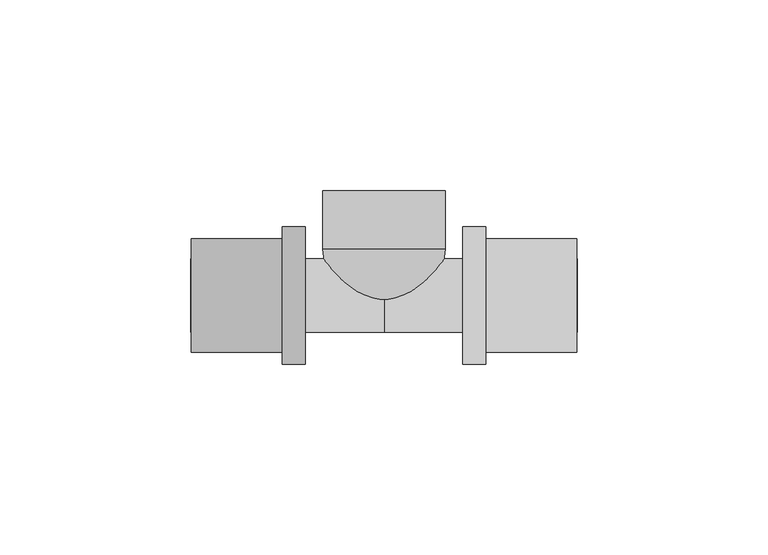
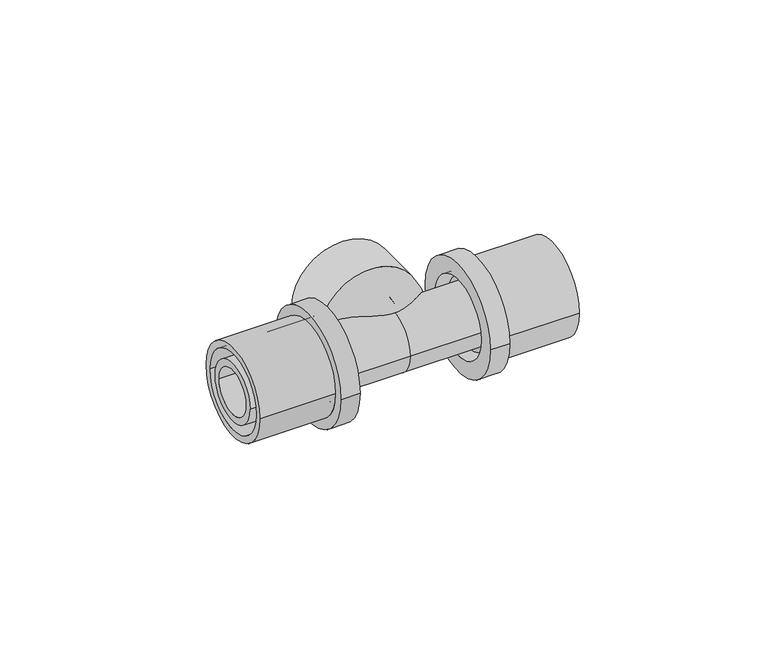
"""IFC4 building model written with IfcOpenShell, lengths in millimetres: pipe fitting geometry, FASTLOC_T-piece internal thread EX+ : FSL T thread EX+ AT."""

from ifc_helpers import new_model, si_unit, point, frame, origin, place, context, project, spatial, polyline, circle_curve, ellipse_curve, trimmed, source, transform, mapped, element, save
from ifc_brep_helpers import plane_surface, cylinder_surface, revolved_surface, advanced_brep


def pipe_fitting_e5d04139(model_context):
    return source(origin(), model_context, "Body", "AdvancedBrep", [
        advanced_brep(
        [(26.7, 18.0, 0.0), (26.7, -18.0, 0.0), (20.7, -18.0, 0.0), (20.7, 18.0, 0.0), (50.5, 14.85, 0.0), (50.5, -14.85, 0.0), (26.7, -14.85, 0.0), (26.7, 14.85, 0.0), (20.7, 12.65, 0.0), (20.7, -12.65, 0.0), (50.5, -12.65, 0.0), (50.5, 12.65, 0.0)],
        [
            (0, 1, circle_curve(frame((26.7, 0.0, 0.0), z_axis=(-1.0, 0.0, 0.0), x_axis=(0.0, -1.0, 0.0)), 18.0)),
            (1, 2),
            (2, 3, circle_curve(frame((20.7, 0.0, 0.0), z_axis=(1.0, 0.0, 0.0), x_axis=(0.0, -1.0, 0.0)), 18.0)),
            (3, 0),
            (4, 5, circle_curve(frame((50.5, 0.0, 0.0), z_axis=(-1.0, 0.0, 0.0), x_axis=(0.0, -1.0, 0.0)), 14.85)),
            (5, 6),
            (6, 7, circle_curve(frame((26.7, 0.0, 0.0), z_axis=(1.0, 0.0, 0.0), x_axis=(0.0, -1.0, 0.0)), 14.85)),
            (7, 4),
            (8, 9, circle_curve(frame((20.7, 0.0, 0.0), z_axis=(-1.0, 0.0, 0.0), x_axis=(0.0, -1.0, 0.0)), 12.65)),
            (9, 10),
            (10, 11, circle_curve(frame((50.5, 0.0, 0.0), z_axis=(1.0, 0.0, 0.0), x_axis=(0.0, -1.0, 0.0)), 12.65)),
            (11, 8),
            (1, 0, circle_curve(frame((26.7, 0.0, 0.0), z_axis=(-1.0, 0.0, 0.0), x_axis=(0.0, 1.0, 0.0)), 18.0)),
            (3, 2, circle_curve(frame((20.7, 0.0, 0.0), z_axis=(1.0, 0.0, 0.0), x_axis=(0.0, 1.0, 0.0)), 18.0)),
            (6, 7, circle_curve(frame((26.7, 0.0, 0.0), z_axis=(-1.0, 0.0, 0.0), x_axis=(0.0, 1.0, 0.0)), 14.85)),
            (5, 4, circle_curve(frame((50.5, 0.0, 0.0), z_axis=(-1.0, 0.0, 0.0), x_axis=(0.0, 1.0, 0.0)), 14.85)),
            (10, 11, circle_curve(frame((50.5, 0.0, 0.0), z_axis=(-1.0, 0.0, 0.0), x_axis=(0.0, 1.0, 0.0)), 12.65)),
            (9, 8, circle_curve(frame((20.7, 0.0, 0.0), z_axis=(-1.0, 0.0, 0.0), x_axis=(0.0, 1.0, 0.0)), 12.65)),
        ],
        [
            cylinder_surface(frame((20.7, 0.0, 0.0), z_axis=(1.0, 0.0, 0.0), x_axis=(0.0, -1.0, 0.0)), 18.0),
            cylinder_surface(frame((20.7, 0.0, 0.0), z_axis=(1.0, 0.0, 0.0), x_axis=(0.0, -1.0, 0.0)), 14.85),
            revolved_surface(polyline([(50.5, -12.65, 0.0), (20.7, -12.65, 0.0)]), (20.7, 0.0, 0.0), (1.0, 0.0, 0.0)),
            cylinder_surface(frame((20.7, 0.0, 0.0), z_axis=(1.0, 0.0, 0.0), x_axis=(0.0, 1.0, 0.0)), 18.0),
            plane_surface(frame((26.7, 0.0, 0.0), z_axis=(1.0, 0.0, 0.0), x_axis=(0.0, 1.0, 0.0))),
            cylinder_surface(frame((20.7, 0.0, 0.0), z_axis=(1.0, 0.0, 0.0), x_axis=(0.0, 1.0, 0.0)), 14.85),
            plane_surface(frame((50.5, 0.0, 0.0), z_axis=(1.0, 0.0, 0.0), x_axis=(0.0, 1.0, 0.0))),
            revolved_surface(polyline([(50.5, 12.65, 0.0), (20.7, 12.65, 0.0)]), (20.7, 0.0, 0.0), (1.0, 0.0, 0.0)),
            plane_surface(frame((20.7, 0.0, 0.0), z_axis=(-1.0, 0.0, 0.0), x_axis=(0.0, 1.0, 0.0))),
        ],
        [
            (0, [[1, 2, 3, 4]]),
            (1, [[5, 6, 7, 8]]),
            (2, [[9, 10, 11, 12]]),
            (3, [[13, -4, 14, -2]]),
            (4, [[-13, -1], [15, -7]]),
            (5, [[16, -8, -15, -6]]),
            (6, [[-16, -5], [17, -11]]),
            (7, [[18, -12, -17, -10]]),
            (8, [[-14, -3], [-18, -9]]),
        ],
    ),
        advanced_brep(
        [(-26.7, -18.0, 0.0), (-26.7, 18.0, 0.0), (-20.7, 18.0, 0.0), (-20.7, -18.0, 0.0), (-50.5, -14.85, 0.0), (-50.5, 14.85, 0.0), (-26.7, 14.85, 0.0), (-26.7, -14.85, 0.0), (-20.7, -12.65, 0.0), (-20.7, 12.65, 0.0), (-50.5, 12.65, 0.0), (-50.5, -12.65, 0.0)],
        [
            (0, 1, circle_curve(frame((-26.7, 0.0, 0.0), z_axis=(1.0, 0.0, 0.0), x_axis=(0.0, 1.0, 0.0)), 18.0)),
            (1, 2),
            (2, 3, circle_curve(frame((-20.7, 0.0, 0.0), z_axis=(-1.0, 0.0, 0.0), x_axis=(0.0, 1.0, 0.0)), 18.0)),
            (3, 0),
            (4, 5, circle_curve(frame((-50.5, 0.0, 0.0), z_axis=(1.0, 0.0, 0.0), x_axis=(0.0, 1.0, 0.0)), 14.85)),
            (5, 6),
            (6, 7, circle_curve(frame((-26.7, 0.0, 0.0), z_axis=(-1.0, 0.0, 0.0), x_axis=(0.0, 1.0, 0.0)), 14.85)),
            (7, 4),
            (8, 9, circle_curve(frame((-20.7, 0.0, 0.0), z_axis=(1.0, 0.0, 0.0), x_axis=(0.0, 1.0, 0.0)), 12.65)),
            (9, 10),
            (10, 11, circle_curve(frame((-50.5, 0.0, 0.0), z_axis=(-1.0, 0.0, 0.0), x_axis=(0.0, 1.0, 0.0)), 12.65)),
            (11, 8),
            (1, 0, circle_curve(frame((-26.7, 0.0, 0.0), z_axis=(1.0, 0.0, 0.0), x_axis=(0.0, -1.0, 0.0)), 18.0)),
            (3, 2, circle_curve(frame((-20.7, 0.0, 0.0), z_axis=(-1.0, 0.0, 0.0), x_axis=(0.0, -1.0, 0.0)), 18.0)),
            (6, 7, circle_curve(frame((-26.7, 0.0, 0.0), z_axis=(1.0, 0.0, 0.0), x_axis=(0.0, -1.0, 0.0)), 14.85)),
            (5, 4, circle_curve(frame((-50.5, 0.0, 0.0), z_axis=(1.0, 0.0, 0.0), x_axis=(0.0, -1.0, 0.0)), 14.85)),
            (10, 11, circle_curve(frame((-50.5, 0.0, 0.0), z_axis=(1.0, 0.0, 0.0), x_axis=(0.0, -1.0, 0.0)), 12.65)),
            (9, 8, circle_curve(frame((-20.7, 0.0, 0.0), z_axis=(1.0, 0.0, 0.0), x_axis=(0.0, -1.0, 0.0)), 12.65)),
        ],
        [
            cylinder_surface(frame((-20.7, 0.0, 0.0), z_axis=(-1.0, 0.0, 0.0), x_axis=(0.0, 1.0, 0.0)), 18.0),
            cylinder_surface(frame((-20.7, 0.0, 0.0), z_axis=(-1.0, 0.0, 0.0), x_axis=(0.0, 1.0, 0.0)), 14.85),
            revolved_surface(polyline([(-50.5, 12.65, 0.0), (-20.7, 12.65, 0.0)]), (-20.7, 0.0, 0.0), (-1.0, 0.0, 0.0)),
            cylinder_surface(frame((-20.7, 0.0, 0.0), z_axis=(-1.0, 0.0, 0.0), x_axis=(0.0, -1.0, 0.0)), 18.0),
            plane_surface(frame((-26.7, 0.0, 0.0), z_axis=(-1.0, 0.0, 0.0), x_axis=(0.0, -1.0, 0.0))),
            cylinder_surface(frame((-20.7, 0.0, 0.0), z_axis=(-1.0, 0.0, 0.0), x_axis=(0.0, -1.0, 0.0)), 14.85),
            plane_surface(frame((-50.5, 0.0, 0.0), z_axis=(-1.0, 0.0, 0.0), x_axis=(0.0, -1.0, 0.0))),
            revolved_surface(polyline([(-50.5, -12.65, 0.0), (-20.7, -12.65, 0.0)]), (-20.7, 0.0, 0.0), (-1.0, 0.0, 0.0)),
            plane_surface(frame((-20.7, 0.0, 0.0), z_axis=(1.0, 0.0, 0.0), x_axis=(0.0, -1.0, 0.0))),
        ],
        [
            (0, [[1, 2, 3, 4]]),
            (1, [[5, 6, 7, 8]]),
            (2, [[9, 10, 11, 12]]),
            (3, [[13, -4, 14, -2]]),
            (4, [[-13, -1], [15, -7]]),
            (5, [[16, -8, -15, -6]]),
            (6, [[-16, -5], [17, -11]]),
            (7, [[18, -12, -17, -10]]),
            (8, [[-14, -3], [-18, -9]]),
        ],
    ),
        advanced_brep(
        [(0.5, -3.7921856, 0.0), (-0.5, -3.7921856, 0.0), (-16.0, 12.2, 0.0), (16.0, 12.2, 0.0), (0.5, 4.7166852, 0.0), (-0.5, 4.7166852, 0.0), (7.5, 12.2, 0.0), (-7.5, 12.2, 0.0), (7.5, 27.5, 0.0), (-7.5, 27.5, 0.0), (-16.0, 27.5, 0.0), (16.0, 27.5, 0.0)],
        [
            (0, 1, circle_curve(frame((0.0, -3.7921856, 0.0), z_axis=(0.0, 1.0, 0.0), x_axis=(-1.0, 0.0, 0.0)), 0.5)),
            (1, 2, circle_curve(frame((0.0, 12.2, 0.0), z_axis=(0.0, 0.0, -1.0), x_axis=(0.0, 1.0, 0.0)), 16.0)),
            (2, 3, circle_curve(frame((0.0, 12.2, 0.0), z_axis=(0.0, -1.0, 0.0), x_axis=(-1.0, 0.0, 0.0)), 16.0)),
            (3, 0, circle_curve(frame((0.0, 12.2, 0.0), z_axis=(0.0, 0.0, -1.0), x_axis=(0.0, 1.0, 0.0)), 16.0)),
            (4, 5, circle_curve(frame((0.0, 4.7166852, 0.0), z_axis=(0.0, 1.0, 0.0), x_axis=(-1.0, 0.0, 0.0)), 0.5)),
            (5, 1),
            (0, 4),
            (6, 7, circle_curve(frame((0.0, 12.2, 0.0), z_axis=(0.0, 1.0, 0.0), x_axis=(-1.0, 0.0, 0.0)), 7.5)),
            (7, 5, circle_curve(frame((0.0, 12.2, 0.0), z_axis=(0.0, 0.0, 1.0), x_axis=(0.0, 1.0, 0.0)), 7.5)),
            (4, 6, circle_curve(frame((0.0, 12.2, 0.0), z_axis=(0.0, 0.0, 1.0), x_axis=(0.0, 1.0, 0.0)), 7.5)),
            (8, 9, circle_curve(frame((0.0, 27.5, 0.0), z_axis=(0.0, 1.0, 0.0), x_axis=(-1.0, 0.0, 0.0)), 7.5)),
            (9, 7),
            (6, 8),
            (2, 10),
            (10, 11, circle_curve(frame((0.0, 27.5, 0.0), z_axis=(0.0, -1.0, 0.0), x_axis=(-1.0, 0.0, 0.0)), 16.0)),
            (11, 3),
            (1, 0, circle_curve(frame((0.0, -3.7921856, 0.0), z_axis=(0.0, 1.0, 0.0), x_axis=(1.0, 0.0, 0.0)), 0.5)),
            (3, 2, circle_curve(frame((0.0, 12.2, 0.0), z_axis=(0.0, -1.0, 0.0), x_axis=(1.0, 0.0, 0.0)), 16.0)),
            (5, 4, circle_curve(frame((0.0, 4.7166852, 0.0), z_axis=(0.0, 1.0, 0.0), x_axis=(1.0, 0.0, 0.0)), 0.5)),
            (7, 6, circle_curve(frame((0.0, 12.2, 0.0), z_axis=(0.0, 1.0, 0.0), x_axis=(1.0, 0.0, 0.0)), 7.5)),
            (9, 8, circle_curve(frame((0.0, 27.5, 0.0), z_axis=(0.0, 1.0, 0.0), x_axis=(1.0, 0.0, 0.0)), 7.5)),
            (10, 11, circle_curve(frame((0.0, 27.5, 0.0), z_axis=(0.0, 1.0, 0.0), x_axis=(1.0, 0.0, 0.0)), 16.0)),
        ],
        [
            revolved_surface(trimmed(ellipse_curve(frame((0.0, 12.2, 0.0), z_axis=(0.0, 0.0, 1.0), x_axis=(0.0, 1.0, 0.0)), 16.0, 16.0), [point((-16.0, 12.2, 0.0))], [point((-0.5, -3.7921856, 0.0))], True, "CARTESIAN"), (0.0, 0.0, 0.0), (0.0, -1.0, 0.0)),
            revolved_surface(polyline([(-0.5, -3.7921856, 0.0), (-0.5, 4.7166852, 0.0)]), (0.0, 0.0, 0.0), (0.0, -1.0, 0.0)),
            revolved_surface(trimmed(ellipse_curve(frame((0.0, 12.2, 0.0), z_axis=(0.0, 0.0, -1.0), x_axis=(0.0, 1.0, 0.0)), 7.5, 7.5), [point((-0.5, 4.7166852, 0.0))], [point((-7.5, 12.2, 0.0))], True, "CARTESIAN"), (0.0, 0.0, 0.0), (0.0, -1.0, 0.0)),
            revolved_surface(polyline([(-7.5, 12.2, 0.0), (-7.5, 27.5, 0.0)]), (0.0, 0.0, 0.0), (0.0, -1.0, 0.0)),
            cylinder_surface(frame((0.0, 0.0, 0.0), z_axis=(0.0, -1.0, 0.0), x_axis=(-1.0, 0.0, 0.0)), 16.0),
            revolved_surface(trimmed(ellipse_curve(frame((0.0, 12.2, 0.0), z_axis=(0.0, 0.0, -1.0), x_axis=(0.0, 1.0, 0.0)), 16.0, 16.0), [point((16.0, 12.2, 0.0))], [point((0.5, -3.7921856, 0.0))], True, "CARTESIAN"), (0.0, 0.0, 0.0), (0.0, -1.0, 0.0)),
            revolved_surface(polyline([(0.5, -3.7921856, 0.0), (0.5, 4.7166852, 0.0)]), (0.0, 0.0, 0.0), (0.0, -1.0, 0.0)),
            revolved_surface(trimmed(ellipse_curve(frame((0.0, 12.2, 0.0), z_axis=(0.0, 0.0, 1.0), x_axis=(0.0, 1.0, 0.0)), 7.5, 7.5), [point((0.5, 4.7166852, 0.0))], [point((7.5, 12.2, 0.0))], True, "CARTESIAN"), (0.0, 0.0, 0.0), (0.0, -1.0, 0.0)),
            revolved_surface(polyline([(7.5, 12.2, 0.0), (7.5, 27.5, 0.0)]), (0.0, 0.0, 0.0), (0.0, -1.0, 0.0)),
            plane_surface(frame((0.0, 27.5, 0.0), z_axis=(0.0, 1.0, 0.0), x_axis=(1.0, 0.0, 0.0))),
            cylinder_surface(frame((0.0, 0.0, 0.0), z_axis=(0.0, -1.0, 0.0), x_axis=(1.0, 0.0, 0.0)), 16.0),
        ],
        [
            (0, [[1, 2, 3, 4]]),
            (1, [[5, 6, -1, 7]]),
            (2, [[8, 9, -5, 10]]),
            (3, [[11, 12, -8, 13]]),
            (4, [[-3, 14, 15, 16]]),
            (5, [[17, -4, 18, -2]]),
            (6, [[19, -7, -17, -6]]),
            (7, [[20, -10, -19, -9]]),
            (8, [[21, -13, -20, -12]]),
            (9, [[22, -15], [-21, -11]]),
            (10, [[-18, -16, -22, -14]]),
        ],
    ),
        advanced_brep(
        [(26.7, 11.1, 0.0), (26.7, -11.1, 0.0), (23.9, -11.1, 0.0), (23.9, 11.1, 0.0), (50.7, 9.6, 0.0), (50.7, -9.6, 0.0), (26.7, -9.6, 0.0), (26.7, 9.6, 0.0), (-50.7, 7.35, 0.0), (-50.7, -7.35, 0.0), (50.7, -7.35, 0.0), (50.7, 7.35, 0.0), (-26.7, 9.6, 0.0), (-26.7, -9.6, 0.0), (-50.7, -9.6, 0.0), (-50.7, 9.6, 0.0), (-23.9, 11.1, 0.0), (-23.9, -11.1, 0.0), (-26.7, -11.1, 0.0), (-26.7, 11.1, 0.0), (0.0, 9.6, 0.0), (0.0, -9.6, 0.0), (-23.9, -9.6, 0.0), (-23.9, 9.6, 0.0), (23.9, 9.6, 0.0), (23.9, -9.6, 0.0)],
        [
            (0, 1, circle_curve(frame((26.7, 0.0, 0.0), z_axis=(-1.0, 0.0, 0.0), x_axis=(0.0, -1.0, 0.0)), 11.1)),
            (1, 2),
            (2, 3, circle_curve(frame((23.9, 0.0, 0.0), z_axis=(1.0, 0.0, 0.0), x_axis=(0.0, -1.0, 0.0)), 11.1)),
            (3, 0),
            (4, 5, circle_curve(frame((50.7, 0.0, 0.0), z_axis=(-1.0, 0.0, 0.0), x_axis=(0.0, -1.0, 0.0)), 9.6)),
            (5, 6),
            (6, 7, circle_curve(frame((26.7, 0.0, 0.0), z_axis=(1.0, 0.0, 0.0), x_axis=(0.0, -1.0, 0.0)), 9.6)),
            (7, 4),
            (8, 9, circle_curve(frame((-50.7, 0.0, 0.0), z_axis=(-1.0, 0.0, 0.0), x_axis=(0.0, -1.0, 0.0)), 7.35)),
            (9, 10),
            (10, 11, circle_curve(frame((50.7, 0.0, 0.0), z_axis=(1.0, 0.0, 0.0), x_axis=(0.0, -1.0, 0.0)), 7.35)),
            (11, 8),
            (12, 13, circle_curve(frame((-26.7, 0.0, 0.0), z_axis=(-1.0, 0.0, 0.0), x_axis=(0.0, -1.0, 0.0)), 9.6)),
            (13, 14),
            (14, 15, circle_curve(frame((-50.7, 0.0, 0.0), z_axis=(1.0, 0.0, 0.0), x_axis=(0.0, -1.0, 0.0)), 9.6)),
            (15, 12),
            (16, 17, circle_curve(frame((-23.9, 0.0, 0.0), z_axis=(-1.0, 0.0, 0.0), x_axis=(0.0, -1.0, 0.0)), 11.1)),
            (17, 18),
            (18, 19, circle_curve(frame((-26.7, 0.0, 0.0), z_axis=(1.0, 0.0, 0.0), x_axis=(0.0, -1.0, 0.0)), 11.1)),
            (19, 16),
            (20, 21, circle_curve(frame((0.0, 0.0, 0.0), z_axis=(-1.0, 0.0, 0.0), x_axis=(0.0, -1.0, 0.0)), 9.6)),
            (21, 22),
            (22, 23, circle_curve(frame((-23.9, 0.0, 0.0), z_axis=(1.0, 0.0, 0.0), x_axis=(0.0, -1.0, 0.0)), 9.6)),
            (23, 20),
            (24, 25, circle_curve(frame((23.9, 0.0, 0.0), z_axis=(-1.0, 0.0, 0.0), x_axis=(0.0, -1.0, 0.0)), 9.6)),
            (25, 21),
            (20, 24),
            (1, 0, circle_curve(frame((26.7, 0.0, 0.0), z_axis=(-1.0, 0.0, 0.0), x_axis=(0.0, 1.0, 0.0)), 11.1)),
            (3, 2, circle_curve(frame((23.9, 0.0, 0.0), z_axis=(1.0, 0.0, 0.0), x_axis=(0.0, 1.0, 0.0)), 11.1)),
            (6, 7, circle_curve(frame((26.7, 0.0, 0.0), z_axis=(-1.0, 0.0, 0.0), x_axis=(0.0, 1.0, 0.0)), 9.6)),
            (5, 4, circle_curve(frame((50.7, 0.0, 0.0), z_axis=(-1.0, 0.0, 0.0), x_axis=(0.0, 1.0, 0.0)), 9.6)),
            (10, 11, circle_curve(frame((50.7, 0.0, 0.0), z_axis=(-1.0, 0.0, 0.0), x_axis=(0.0, 1.0, 0.0)), 7.35)),
            (9, 8, circle_curve(frame((-50.7, 0.0, 0.0), z_axis=(-1.0, 0.0, 0.0), x_axis=(0.0, 1.0, 0.0)), 7.35)),
            (14, 15, circle_curve(frame((-50.7, 0.0, 0.0), z_axis=(-1.0, 0.0, 0.0), x_axis=(0.0, 1.0, 0.0)), 9.6)),
            (13, 12, circle_curve(frame((-26.7, 0.0, 0.0), z_axis=(-1.0, 0.0, 0.0), x_axis=(0.0, 1.0, 0.0)), 9.6)),
            (18, 19, circle_curve(frame((-26.7, 0.0, 0.0), z_axis=(-1.0, 0.0, 0.0), x_axis=(0.0, 1.0, 0.0)), 11.1)),
            (17, 16, circle_curve(frame((-23.9, 0.0, 0.0), z_axis=(-1.0, 0.0, 0.0), x_axis=(0.0, 1.0, 0.0)), 11.1)),
            (22, 23, circle_curve(frame((-23.9, 0.0, 0.0), z_axis=(-1.0, 0.0, 0.0), x_axis=(0.0, 1.0, 0.0)), 9.6)),
            (21, 20, circle_curve(frame((0.0, 0.0, 0.0), z_axis=(-1.0, 0.0, 0.0), x_axis=(0.0, 1.0, 0.0)), 9.6)),
            (25, 24, circle_curve(frame((23.9, 0.0, 0.0), z_axis=(-1.0, 0.0, 0.0), x_axis=(0.0, 1.0, 0.0)), 9.6)),
        ],
        [
            cylinder_surface(frame((0.0, 0.0, 0.0), z_axis=(1.0, 0.0, 0.0), x_axis=(0.0, -1.0, 0.0)), 11.1),
            cylinder_surface(frame((0.0, 0.0, 0.0), z_axis=(1.0, 0.0, 0.0), x_axis=(0.0, -1.0, 0.0)), 9.6),
            revolved_surface(polyline([(50.7, -7.35, 0.0), (-50.7, -7.35, 0.0)]), (0.0, 0.0, 0.0), (1.0, 0.0, 0.0)),
            cylinder_surface(frame((0.0, 0.0, 0.0), z_axis=(1.0, 0.0, 0.0), x_axis=(0.0, 1.0, 0.0)), 11.1),
            plane_surface(frame((26.7, 0.0, 0.0), z_axis=(1.0, 0.0, 0.0), x_axis=(0.0, 1.0, 0.0))),
            cylinder_surface(frame((0.0, 0.0, 0.0), z_axis=(1.0, 0.0, 0.0), x_axis=(0.0, 1.0, 0.0)), 9.6),
            plane_surface(frame((50.7, 0.0, 0.0), z_axis=(1.0, 0.0, 0.0), x_axis=(0.0, 1.0, 0.0))),
            revolved_surface(polyline([(50.7, 7.35, 0.0), (-50.7, 7.35, 0.0)]), (0.0, 0.0, 0.0), (1.0, 0.0, 0.0)),
            plane_surface(frame((-50.7, 0.0, 0.0), z_axis=(-1.0, 0.0, 0.0), x_axis=(0.0, 1.0, 0.0))),
            plane_surface(frame((-26.7, 0.0, 0.0), z_axis=(-1.0, 0.0, 0.0), x_axis=(0.0, 1.0, 0.0))),
            plane_surface(frame((-23.9, 0.0, 0.0), z_axis=(1.0, 0.0, 0.0), x_axis=(0.0, 1.0, 0.0))),
            plane_surface(frame((23.9, 0.0, 0.0), z_axis=(-1.0, 0.0, 0.0), x_axis=(0.0, 1.0, 0.0))),
        ],
        [
            (0, [[1, 2, 3, 4]]),
            (1, [[5, 6, 7, 8]]),
            (2, [[9, 10, 11, 12]]),
            (1, [[13, 14, 15, 16]]),
            (0, [[17, 18, 19, 20]]),
            (1, [[21, 22, 23, 24]]),
            (1, [[25, 26, -21, 27]]),
            (3, [[28, -4, 29, -2]]),
            (4, [[-28, -1], [30, -7]]),
            (5, [[31, -8, -30, -6]]),
            (6, [[-31, -5], [32, -11]]),
            (7, [[33, -12, -32, -10]]),
            (8, [[34, -15], [-33, -9]]),
            (5, [[35, -16, -34, -14]]),
            (9, [[36, -19], [-35, -13]]),
            (3, [[37, -20, -36, -18]]),
            (10, [[-37, -17], [38, -23]]),
            (5, [[39, -24, -38, -22]]),
            (5, [[40, -27, -39, -26]]),
            (11, [[-29, -3], [-40, -25]]),
        ],
    ),
    ])


if __name__ == "__main__":
    model = new_model("IFC4")
    model_context = context("Model", 3, world=origin())
    ifc_project = project(units=[si_unit("LENGTHUNIT", "METRE", prefix="MILLI")], contexts=[model_context])
    site = spatial("IfcSite", under=ifc_project)
    building = spatial("IfcBuilding", under=site)
    placement = place(None, origin())
    pipe_fitting_shape = pipe_fitting_e5d04139(model_context)
    element("IfcPipeFitting", 1, ObjectType="FASTLOC_T-piece internal thread EX+ : FSL T thread EX+ AT", at=placement, inside=building, context=model_context, shape_type="MappedRepresentation", body=[
        mapped(pipe_fitting_shape, transform((0.0, 0.0, 0.0), x_axis=(1.0, 0.0, 0.0), y_axis=(0.0, 1.0, 0.0), z_axis=(0.0, 0.0, 1.0))),
    ])
    save(model, "model.ifc")
